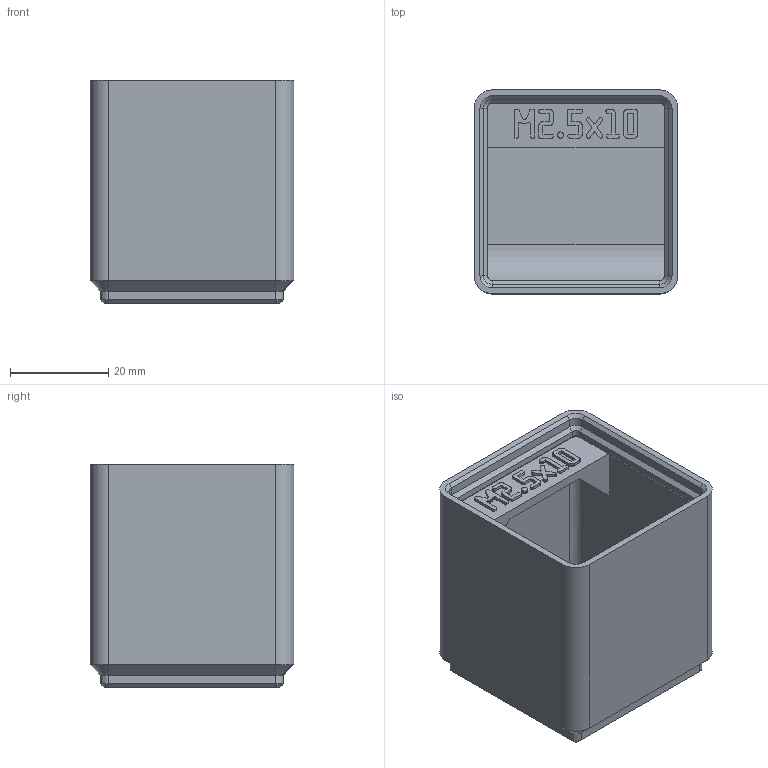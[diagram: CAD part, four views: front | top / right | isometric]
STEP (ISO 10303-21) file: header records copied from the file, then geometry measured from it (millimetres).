
FILE_DESCRIPTION(('Open CASCADE Model'),'2;1');
FILE_NAME('Open CASCADE Shape Model','2026-11-03T10:35:59',('Author'),( 'Open CASCADE'),'Open CASCADE STEP processor 8.0','build123d', 'Unknown');
FILE_SCHEMA(('AUTOMOTIVE_DESIGN { 1 0 10303 214 1 1 1 1 }'));
Length unit declared in the file: millimetre
Products named in the file (1): COMPOUND
Bounding box: 41.5 x 41.5 x 45.55 mm (x, y, z)
Volume: 24951.1 mm3; surface area: 16527.1 mm2
Topology: 1 solids, 1 shells, 741 faces, 2130 edges, 1400 vertices
Faces by surface type: plane 700, cylinder 21, cone 20
Entity records: 50201 total; most frequent: CARTESIAN_POINT 10362, DIRECTION 6405, LINE 4806, VECTOR 4806, ORIENTED_EDGE 4260, PCURVE 4260, DEFINITIONAL_REPRESENTATION 4260, EDGE_CURVE 2130
